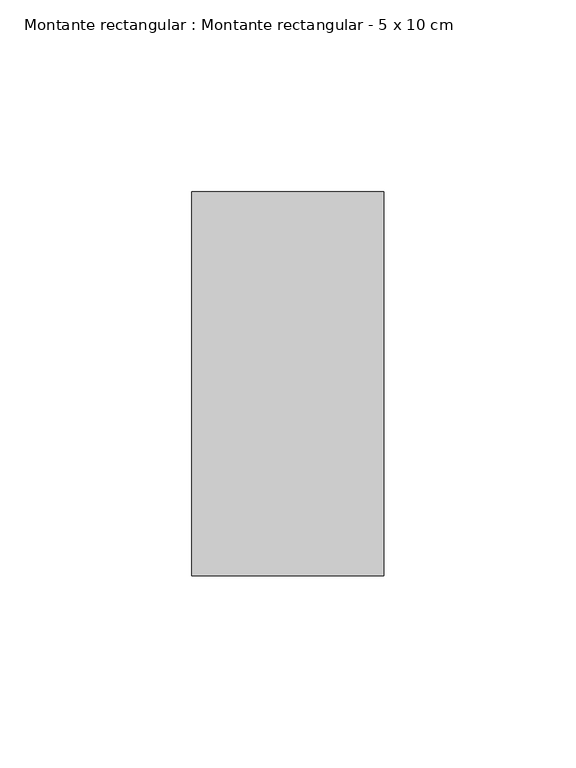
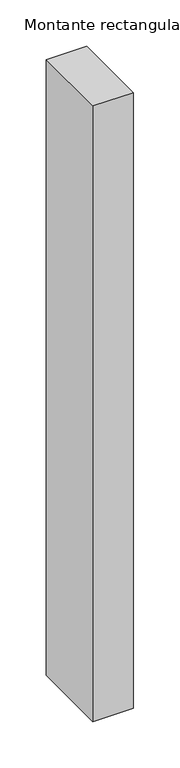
"""IFC4 building model written with IfcOpenShell, lengths in millimetres: member geometry, Montante rectangular : Montante rectangular - 5 x 10 cm."""

from ifc_helpers import new_model, si_unit, frame, origin, place, context, project, spatial, polyline, outline, extrude, source, transform, mapped, element, save


def montante_rectangular_montante_rectangular_5_x_10_cm_c39ad158(model_context):
    return source(origin(), model_context, "Body", "SweptSolid", [
        extrude(outline(polyline([(25.0, 50.0), (25.0, -50.0), (-25.0, -50.0), (-25.0, 50.0), (25.0, 50.0)])), frame((0.0, 0.0, -809.2029387), z_axis=(0.0, 0.0, 1.0), x_axis=(1.0, 0.0, 0.0)), (0.0, 0.0, 1.0), 809.2029387),
    ])


if __name__ == "__main__":
    model = new_model("IFC4")
    model_context = context("Model", 3, world=origin())
    ifc_project = project(units=[si_unit("LENGTHUNIT", "METRE", prefix="MILLI")], contexts=[model_context])
    site = spatial("IfcSite", under=ifc_project)
    building = spatial("IfcBuilding", under=site)
    placement = place(None, origin())
    montante_rectangular_montante_rectangular_5_x_10_cm_shape = montante_rectangular_montante_rectangular_5_x_10_cm_c39ad158(model_context)
    element("IfcMember", 1, ObjectType="Montante rectangular : Montante rectangular - 5 x 10 cm", at=placement, inside=building, context=model_context, shape_type="MappedRepresentation", body=[
        mapped(montante_rectangular_montante_rectangular_5_x_10_cm_shape, transform((0.0, 0.0, 0.0), x_axis=(1.0, 0.0, 0.0), y_axis=(0.0, 1.0, 0.0), z_axis=(0.0, 0.0, 1.0))),
    ])
    save(model, "model.ifc")
